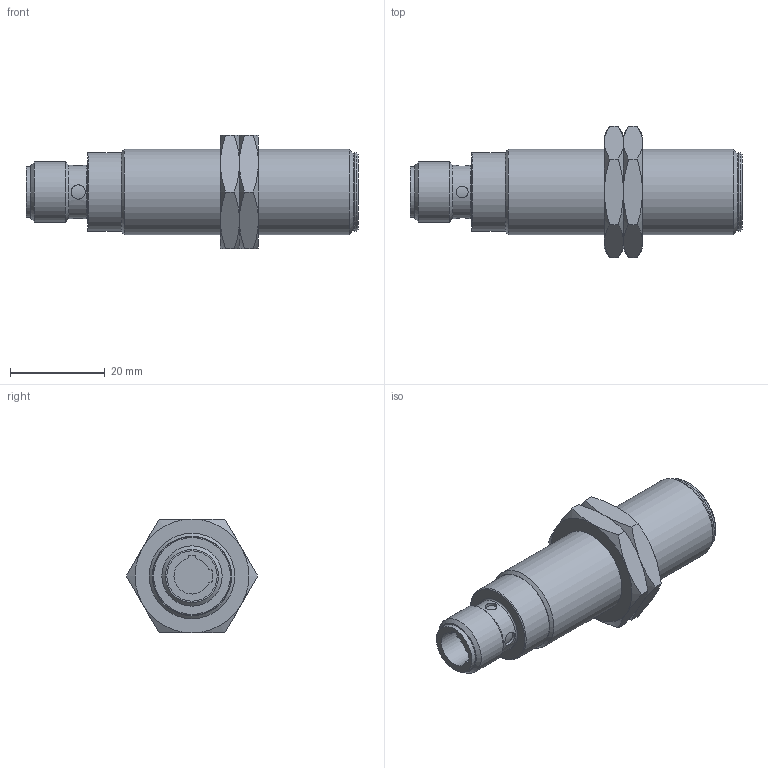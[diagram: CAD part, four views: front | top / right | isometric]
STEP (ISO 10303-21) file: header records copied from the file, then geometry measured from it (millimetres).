
FILE_DESCRIPTION( ( 'STEP AP203' ), '1' );
FILE_NAME( '//expscmdclustefs.cadenas.external/client_exchange/iodir/jobs/output/wkb81176722_no0/STEP/IGT002_2_03.stp', ' ', ( ' ' ), ( ' ' ), 'PSStep 15.0.47', 'PARTsolutions', ' ' );
FILE_SCHEMA( ( 'CONFIG_CONTROL_DESIGN' ) );
Length unit declared in the file: millimetre
Products named in the file (3): IGT002; _IGT002_part1; _SW24-L4-M18x1
Assembly tree (3 placements, depth 2):
  IGT002
    _IGT002_part1
    _SW24-L4-M18x1  x2
Bounding box: 70 x 27.71 x 24 mm (x, y, z)
Volume: 17383.3 mm3; surface area: 6396.9 mm2
Topology: 3 solids, 3 shells, 91 faces, 193 edges, 116 vertices
Faces by surface type: cone 32, cylinder 29, plane 27, torus 3
Full cylindrical faces by diameter (mm): 2.5 x2, 3 x2, 10.6 x1, 11.3 x1, 12.7 x1, 16 x1, 16.6 x2, 16.917 x2, 18 x1
Entity records: 2256 total; most frequent: CARTESIAN_POINT 784, DIRECTION 292, ORIENTED_EDGE 242, AXIS2_PLACEMENT_3D 131, EDGE_CURVE 121, EDGE_LOOP 100, VERTEX_POINT 87, FACE_OUTER_BOUND 83
